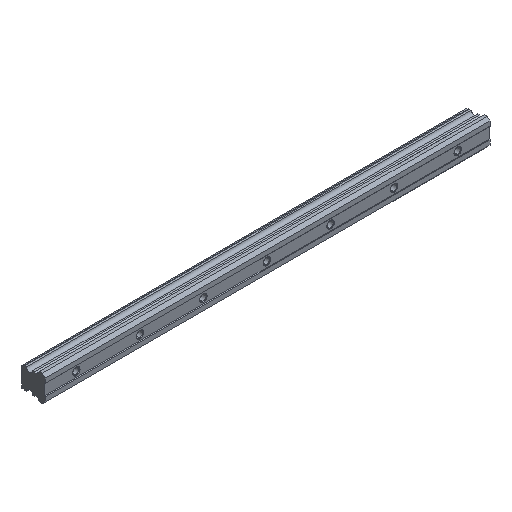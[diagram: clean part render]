
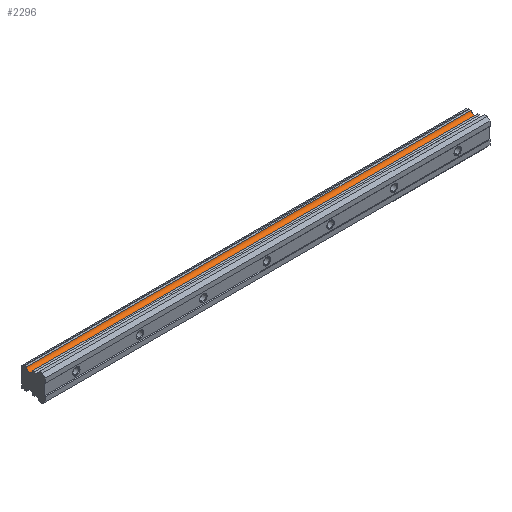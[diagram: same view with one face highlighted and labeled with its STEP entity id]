
A CAD part, isometric view. The second image highlights one B-rep face of the part: STEP entity #2296.
In plain terms, the highlighted cylindrical face has radius 3.1 mm (diameter 6.2 mm), a partial arc.
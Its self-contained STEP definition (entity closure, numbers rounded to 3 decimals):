
#6 = DIRECTION ( 'NONE',  ( -1., 0., 0. ) ) ;
#88 = DIRECTION ( 'NONE',  ( 0., 0., -1. ) ) ;
#144 = ORIENTED_EDGE ( 'NONE', *, *, #770, .F. ) ;
#165 = DIRECTION ( 'NONE',  ( -1., 0., 0. ) ) ;
#345 = ORIENTED_EDGE ( 'NONE', *, *, #1982, .T. ) ;
#472 = VERTEX_POINT ( 'NONE', #889 ) ;
#493 = AXIS2_PLACEMENT_3D ( 'NONE', #1896, #2097, #88 ) ;
#583 = VERTEX_POINT ( 'NONE', #2367 ) ;
#618 = FACE_OUTER_BOUND ( 'NONE', #1682, .T. ) ;
#747 = VECTOR ( 'NONE', #165, 1000. ) ;
#749 = CIRCLE ( 'NONE', #493, 3.1 ) ;
#769 = VERTEX_POINT ( 'NONE', #1022 ) ;
#770 = EDGE_CURVE ( 'NONE', #472, #1457, #1209, .T. ) ;
#814 = CYLINDRICAL_SURFACE ( 'NONE', #1866, 3.1 ) ;
#854 = CARTESIAN_POINT ( 'NONE',  ( 420., 11.515, 10. ) ) ;
#889 = CARTESIAN_POINT ( 'NONE',  ( 420., 17.685, 10. ) ) ;
#985 = DIRECTION ( 'NONE',  ( -1., 0., 0. ) ) ;
#1022 = CARTESIAN_POINT ( 'NONE',  ( 0., 11.515, 10. ) ) ;
#1052 = EDGE_CURVE ( 'NONE', #472, #583, #1158, .T. ) ;
#1158 = LINE ( 'NONE', #1978, #2330 ) ;
#1186 = LINE ( 'NONE', #2190, #747 ) ;
#1209 = CIRCLE ( 'NONE', #2447, 3.1 ) ;
#1425 = CARTESIAN_POINT ( 'NONE',  ( 420., 14.6, 10.3 ) ) ;
#1457 = VERTEX_POINT ( 'NONE', #854 ) ;
#1576 = ORIENTED_EDGE ( 'NONE', *, *, #1745, .F. ) ;
#1589 = DIRECTION ( 'NONE',  ( -1., 0., 0. ) ) ;
#1601 = DIRECTION ( 'NONE',  ( 0., 0., -1. ) ) ;
#1628 = DIRECTION ( 'NONE',  ( 0., 0., 1. ) ) ;
#1682 = EDGE_LOOP ( 'NONE', ( #345, #1576, #144, #1752 ) ) ;
#1745 = EDGE_CURVE ( 'NONE', #1457, #769, #1186, .T. ) ;
#1752 = ORIENTED_EDGE ( 'NONE', *, *, #1052, .T. ) ;
#1866 = AXIS2_PLACEMENT_3D ( 'NONE', #2445, #6, #1628 ) ;
#1896 = CARTESIAN_POINT ( 'NONE',  ( 0., 14.6, 10.3 ) ) ;
#1978 = CARTESIAN_POINT ( 'NONE',  ( 420., 17.685, 10. ) ) ;
#1982 = EDGE_CURVE ( 'NONE', #583, #769, #749, .T. ) ;
#2097 = DIRECTION ( 'NONE',  ( -1., 0., 0. ) ) ;
#2190 = CARTESIAN_POINT ( 'NONE',  ( 420., 11.515, 10. ) ) ;
#2296 = ADVANCED_FACE ( 'NONE', ( #618 ), #814, .F. ) ;
#2330 = VECTOR ( 'NONE', #1589, 1000. ) ;
#2367 = CARTESIAN_POINT ( 'NONE',  ( 0., 17.685, 10. ) ) ;
#2445 = CARTESIAN_POINT ( 'NONE',  ( 420., 14.6, 10.3 ) ) ;
#2447 = AXIS2_PLACEMENT_3D ( 'NONE', #1425, #985, #1601 ) ;
